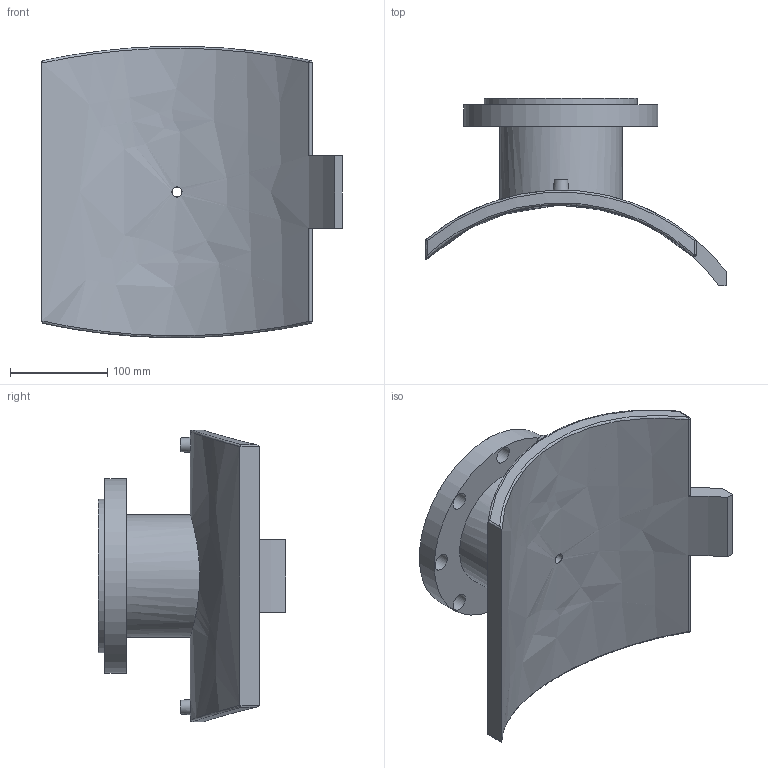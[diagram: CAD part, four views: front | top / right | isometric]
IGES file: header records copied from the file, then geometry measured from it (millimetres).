
Global section: file name: 495904400100T; native system: Autodesk Inventor 2019; preprocessor: unknown; author: KIM; date: 20240403.210016; units: millimetre
Bounding box: 309 x 193.31 x 299.78 mm (x, y, z)
Volume: 2263605.1 mm3; surface area: 330580.7 mm2
Topology: 1 solids, 1 shells, 58 faces, 151 edges, 118 vertices
Faces by surface type: bspline 58
